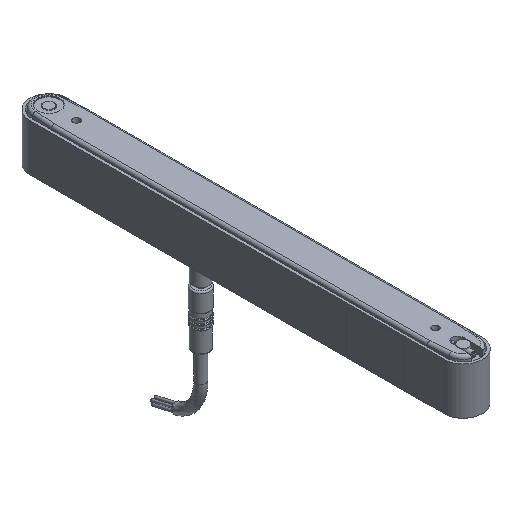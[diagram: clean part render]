
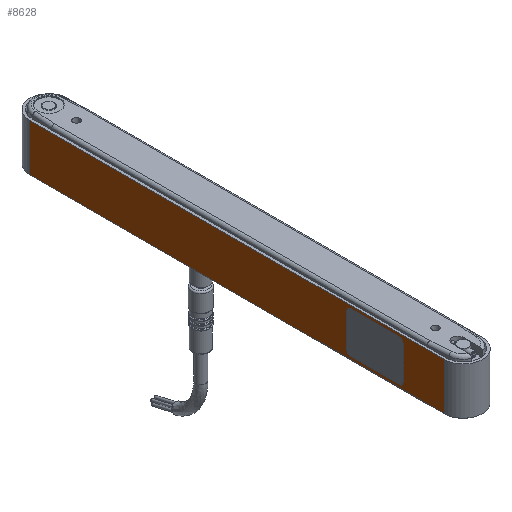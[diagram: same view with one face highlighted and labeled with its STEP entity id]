
A CAD part, isometric view. The second image highlights one B-rep face of the part: STEP entity #8628.
In plain terms, the highlighted planar face has unit normal (-1, 0, 0).
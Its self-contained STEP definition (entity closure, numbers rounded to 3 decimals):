
#357=FACE_BOUND('',#1347,.T.);
#464=PLANE('',#9261);
#840=FACE_OUTER_BOUND('',#1346,.T.);
#1346=EDGE_LOOP('',(#5861,#5862,#5863,#5864));
#1347=EDGE_LOOP('',(#5865,#5866,#5867,#5868,#5869,#5870,#5871,#5872));
#1855=LINE('',#12824,#2397);
#1859=LINE('',#12836,#2401);
#1863=LINE('',#12848,#2405);
#1867=LINE('',#12860,#2409);
#1877=LINE('',#12895,#2419);
#1880=LINE('',#12904,#2422);
#1883=LINE('',#12912,#2425);
#1884=LINE('',#12914,#2426);
#2397=VECTOR('',#10387,10.);
#2401=VECTOR('',#10399,10.);
#2405=VECTOR('',#10411,10.);
#2409=VECTOR('',#10423,10.);
#2419=VECTOR('',#10461,10.);
#2422=VECTOR('',#10470,10.);
#2425=VECTOR('',#10479,10.);
#2426=VECTOR('',#10482,10.);
#2975=CIRCLE('',#9231,1.5);
#2977=CIRCLE('',#9235,1.5);
#2979=CIRCLE('',#9239,1.5);
#2981=CIRCLE('',#9243,1.5);
#3488=VERTEX_POINT('',#12821);
#3489=VERTEX_POINT('',#12823);
#3491=VERTEX_POINT('',#12829);
#3493=VERTEX_POINT('',#12835);
#3495=VERTEX_POINT('',#12841);
#3497=VERTEX_POINT('',#12847);
#3499=VERTEX_POINT('',#12853);
#3501=VERTEX_POINT('',#12859);
#3510=VERTEX_POINT('',#12891);
#3512=VERTEX_POINT('',#12894);
#3514=VERTEX_POINT('',#12900);
#3517=VERTEX_POINT('',#12910);
#4376=EDGE_CURVE('',#3489,#3488,#1855,.T.);
#4379=EDGE_CURVE('',#3491,#3489,#2975,.T.);
#4382=EDGE_CURVE('',#3493,#3491,#1859,.T.);
#4385=EDGE_CURVE('',#3495,#3493,#2977,.T.);
#4388=EDGE_CURVE('',#3497,#3495,#1863,.T.);
#4391=EDGE_CURVE('',#3499,#3497,#2979,.T.);
#4394=EDGE_CURVE('',#3501,#3499,#1867,.T.);
#4397=EDGE_CURVE('',#3488,#3501,#2981,.T.);
#4411=EDGE_CURVE('',#3512,#3510,#1877,.T.);
#4416=EDGE_CURVE('',#3514,#3512,#1880,.T.);
#4420=EDGE_CURVE('',#3510,#3517,#1883,.T.);
#4421=EDGE_CURVE('',#3517,#3514,#1884,.T.);
#5861=ORIENTED_EDGE('',*,*,#4421,.T.);
#5862=ORIENTED_EDGE('',*,*,#4416,.T.);
#5863=ORIENTED_EDGE('',*,*,#4411,.T.);
#5864=ORIENTED_EDGE('',*,*,#4420,.T.);
#5865=ORIENTED_EDGE('',*,*,#4376,.T.);
#5866=ORIENTED_EDGE('',*,*,#4397,.T.);
#5867=ORIENTED_EDGE('',*,*,#4394,.T.);
#5868=ORIENTED_EDGE('',*,*,#4391,.T.);
#5869=ORIENTED_EDGE('',*,*,#4388,.T.);
#5870=ORIENTED_EDGE('',*,*,#4385,.T.);
#5871=ORIENTED_EDGE('',*,*,#4382,.T.);
#5872=ORIENTED_EDGE('',*,*,#4379,.T.);
#8628=ADVANCED_FACE('',(#840,#357),#464,.T.);
#9231=AXIS2_PLACEMENT_3D('',#12830,#10393,#10394);
#9235=AXIS2_PLACEMENT_3D('',#12842,#10405,#10406);
#9239=AXIS2_PLACEMENT_3D('',#12854,#10417,#10418);
#9243=AXIS2_PLACEMENT_3D('',#12864,#10429,#10430);
#9261=AXIS2_PLACEMENT_3D('',#12913,#10480,#10481);
#10387=DIRECTION('',(0.,1.,0.));
#10393=DIRECTION('center_axis',(1.,0.,0.));
#10394=DIRECTION('ref_axis',(0.,0.,
-1.));
#10399=DIRECTION('',(0.,0.,-1.));
#10405=DIRECTION('center_axis',(1.,0.,0.));
#10406=DIRECTION('ref_axis',(0.,-1.,0.));
#10411=DIRECTION('',(0.,-1.,0.));
#10417=DIRECTION('center_axis',(1.,0.,0.));
#10418=DIRECTION('ref_axis',(0.,0.,1.));
#10423=DIRECTION('',(0.,0.,1.));
#10429=DIRECTION('center_axis',(1.,0.,0.));
#10430=DIRECTION('ref_axis',(0.,1.,0.));
#10461=DIRECTION('',(0.,-1.,0.));
#10470=DIRECTION('',(0.,0.,-1.));
#10479=DIRECTION('',(0.,0.,1.));
#10480=DIRECTION('center_axis',(-1.,0.,0.));
#10481=DIRECTION('ref_axis',(0.,0.,1.));
#10482=DIRECTION('',(0.,1.,0.));
#12821=CARTESIAN_POINT('',(-6.9,33.7,-7.5));
#12823=CARTESIAN_POINT('',(-6.9,16.3,-7.5));
#12824=CARTESIAN_POINT('',(-6.9,16.85,-7.5));
#12829=CARTESIAN_POINT('',(-6.9,14.8,-6.));
#12830=CARTESIAN_POINT('Origin',(-6.9,16.3,-6.));
#12835=CARTESIAN_POINT('',(-6.9,14.8,6.));
#12836=CARTESIAN_POINT('',(-6.9,14.8,-3.));
#12841=CARTESIAN_POINT('',(-6.9,16.3,7.5));
#12842=CARTESIAN_POINT('Origin',(-6.9,16.3,6.));
#12847=CARTESIAN_POINT('',(-6.9,33.7,7.5));
#12848=CARTESIAN_POINT('',(-6.9,8.15,7.5));
#12853=CARTESIAN_POINT('',(-6.9,35.2,6.));
#12854=CARTESIAN_POINT('Origin',(-6.9,33.7,6.));
#12859=CARTESIAN_POINT('',(-6.9,35.2,-6.));
#12860=CARTESIAN_POINT('',(-6.9,35.2,3.));
#12864=CARTESIAN_POINT('Origin',(-6.9,33.7,-6.));
#12891=CARTESIAN_POINT('',(-6.9,0.,-8.5));
#12894=CARTESIAN_POINT('',(-6.9,150.,-8.5));
#12895=CARTESIAN_POINT('',(-6.9,150.,-8.5));
#12900=CARTESIAN_POINT('',(-6.9,150.,8.5));
#12904=CARTESIAN_POINT('',(-6.9,150.,0.));
#12910=CARTESIAN_POINT('',(-6.9,0.,8.5));
#12912=CARTESIAN_POINT('',(-6.9,0.,0.));
#12913=CARTESIAN_POINT('Origin',(-6.9,0.,
0.));
#12914=CARTESIAN_POINT('',(-6.9,150.,8.5));
